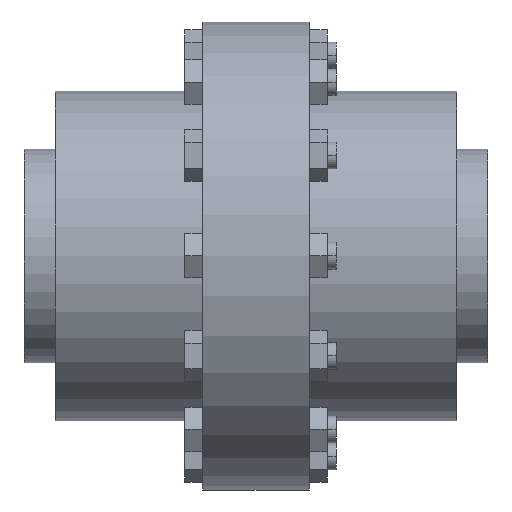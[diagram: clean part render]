
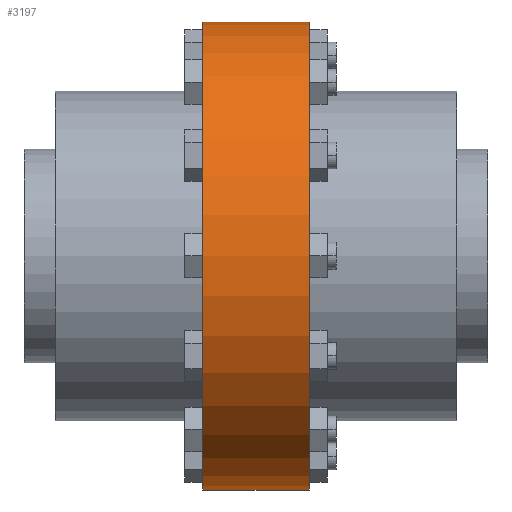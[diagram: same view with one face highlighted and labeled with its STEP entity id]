
A CAD part, top view. The second image highlights one B-rep face of the part: STEP entity #3197.
In plain terms, the highlighted cylindrical face has radius 52.5 mm (diameter 105 mm), a partial arc.
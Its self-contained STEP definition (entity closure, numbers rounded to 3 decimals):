
#327=CARTESIAN_POINT('',(12.,0.,0.));
#328=DIRECTION('',(1.,0.,0.));
#329=DIRECTION('',(0.,1.,0.));
#330=AXIS2_PLACEMENT_3D('',#327,#328,#329);
#332=DIRECTION('',(-1.,0.,0.));
#333=VECTOR('',#332,24.);
#334=CARTESIAN_POINT('',(12.,52.5,0.));
#335=LINE('',#334,#333);
#336=DIRECTION('',(-1.,0.,0.));
#337=VECTOR('',#336,24.);
#338=CARTESIAN_POINT('',(12.,-52.5,0.));
#339=LINE('',#338,#337);
#350=CARTESIAN_POINT('',(-12.,0.,0.));
#351=DIRECTION('',(1.,0.,0.));
#352=DIRECTION('',(0.,1.,0.));
#353=AXIS2_PLACEMENT_3D('',#350,#351,#352);
#2237=CARTESIAN_POINT('',(12.,52.5,0.));
#2238=CARTESIAN_POINT('',(-12.,52.5,0.));
#2239=VERTEX_POINT('',#2237);
#2240=VERTEX_POINT('',#2238);
#2249=CARTESIAN_POINT('',(12.,-52.5,0.));
#2250=CARTESIAN_POINT('',(-12.,-52.5,0.));
#2251=VERTEX_POINT('',#2249);
#2252=VERTEX_POINT('',#2250);
#3183=CARTESIAN_POINT('',(-57.2,0.,0.));
#3184=DIRECTION('',(1.,0.,0.));
#3185=DIRECTION('',(0.,-1.,0.));
#3186=AXIS2_PLACEMENT_3D('',#3183,#3184,#3185);
#3187=CYLINDRICAL_SURFACE('',#3186,52.5);
#3189=ORIENTED_EDGE('',*,*,#3188,.F.);
#3190=ORIENTED_EDGE('',*,*,#3004,.T.);
#3192=ORIENTED_EDGE('',*,*,#3191,.T.);
#3194=ORIENTED_EDGE('',*,*,#3193,.F.);
#3195=EDGE_LOOP('',(#3189,#3190,#3192,#3194));
#3196=FACE_OUTER_BOUND('',#3195,.F.);
#3197=ADVANCED_FACE('',(#3196),#3187,.T.);
#331=CIRCLE('',#330,52.5);
#354=CIRCLE('',#353,52.5);
#3004=EDGE_CURVE('',#2239,#2251,#331,.T.);
#3188=EDGE_CURVE('',#2239,#2240,#335,.T.);
#3191=EDGE_CURVE('',#2251,#2252,#339,.T.);
#3193=EDGE_CURVE('',#2240,#2252,#354,.T.);
